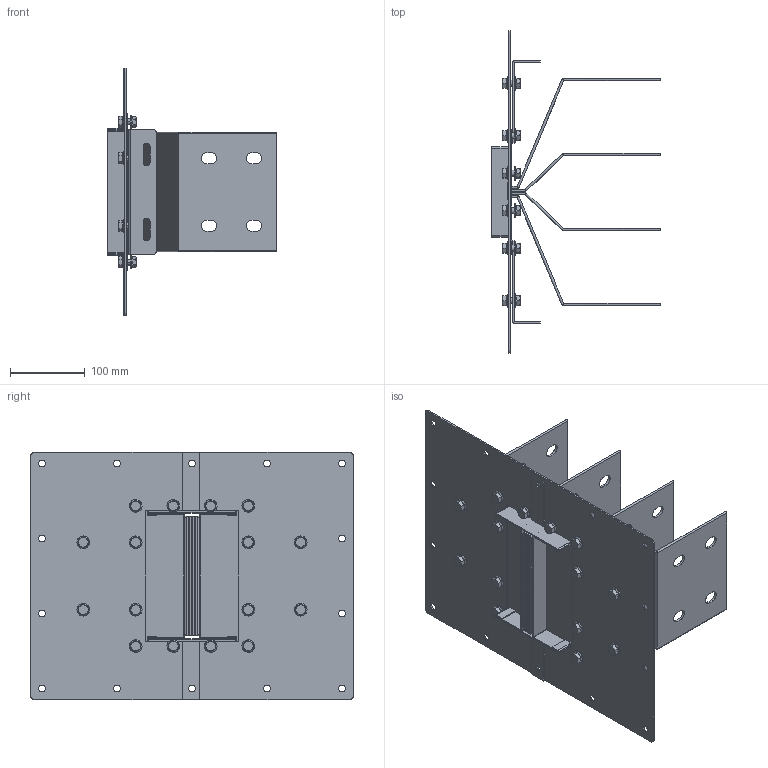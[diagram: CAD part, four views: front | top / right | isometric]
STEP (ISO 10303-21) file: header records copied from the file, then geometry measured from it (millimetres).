
FILE_DESCRIPTION(('CATIA V5 STEP','CAx-IF Rec.Pracs.--- Model Styling and Organization---1.5--- 2016-08-15','CAx-IF Rec.Pracs.---Supplemental Geometry---1.0---2011-11-01','CAx-IF Rec.Pracs.--- Composite Materials ---1.1---2010-07-15'),'2;1');
FILE_NAME('K:\COSCN 2011\32372311_RiduzioneSezioniBarre\03_Studio\__Modelli semplificati\XCP_UB semplificati per studi\XCP-S_UB_4C_Pe_STD_Assieme\Cu\XCP-S_UB_4C_Pe_S_Assieme - 1600A Cu\XCP-S_UB_4C_Pe_S_Assieme - 1600A Cu.stp','2025-05-12T13:03:01+00:00',('Utente Bticino'),('Bticino S.p.A.'),'CATIA Version 5-6 Release 2020 SP5','CATIA V5 STEP AP214 v2','none');
FILE_SCHEMA(('AUTOMOTIVE_DESIGN { 1 0 10303 214 1 1 1 1 }'));
Length unit declared in the file: millimetre
Products named in the file (7): XCP-S_UB_4C_Pe_S_Assieme - 1600A Cu; XCP-S_UB_4C_Pe_S_PaccoBarre_1600 Cu; XCP-S_UB_4C_Pe_S_Lamiere_1600A Cu; Viteria UB H130; Ass Vite+dado M8; Steel hex flanged SCREW M12x16; Steel hex flanged NUT M8
Assembly tree (21 placements, depth 4):
  XCP-S_UB_4C_Pe_S_Assieme - 1600A Cu
    XCP-S_UB_4C_Pe_S_PaccoBarre_1600 Cu
    XCP-S_UB_4C_Pe_S_Lamiere_1600A Cu
    Viteria UB H130
      Ass Vite+dado M8  x16
        Steel hex flanged SCREW M12x16
        Steel hex flanged NUT M8
Bounding box: 225 x 430 x 330 mm (x, y, z)
Volume: 1036907.2 mm3; surface area: 850480.9 mm2
Topology: 44 solids, 44 shells, 1140 faces, 2800 edges, 1780 vertices
Faces by surface type: plane 480, cylinder 372, cone 128, bspline 128, torus 32
Entity records: 14705 total; most frequent: CARTESIAN_POINT 3426, ORIENTED_EDGE 2420, DIRECTION 1904, EDGE_CURVE 1210, AXIS2_PLACEMENT_3D 800, VERTEX_POINT 790, VECTOR 724, LINE 724
